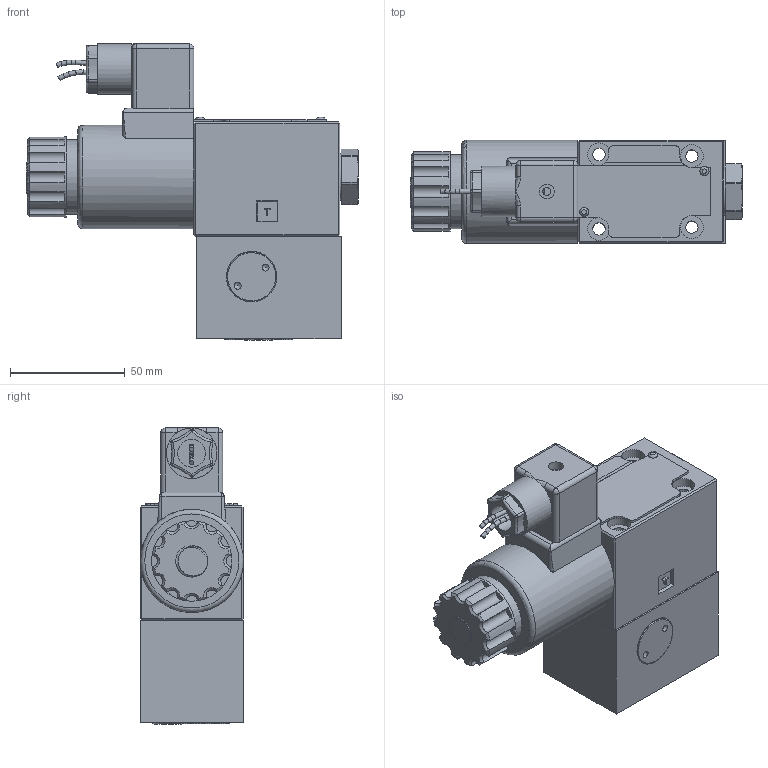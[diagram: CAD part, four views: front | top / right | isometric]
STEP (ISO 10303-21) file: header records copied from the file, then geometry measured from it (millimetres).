
FILE_DESCRIPTION(/* description */ (''),/* implementation_level */ '2;1');
FILE_NAME(/* name */ 'M-4SED6Y电磁球阀.prt.stp',/* time_stamp */ '2022-03-30T19:36:25+08:00',/* author */ (''),/* organization */ (''),/* preprocessor_version */ 'ST-DEVELOPER v16.7',/* originating_system */ 'SIEMENS PLM Software NX 12.0',/* authorisation */ '');
FILE_SCHEMA (('AUTOMOTIVE_DESIGN { 1 0 10303 214 3 1 1 1 }'));
Products named in the file (1): M-4SED6Y电磁球阀
Bounding box: 144.78 x 45.2 x 129.1 mm (x, y, z)
Volume: 397435 mm3; surface area: 88651.1 mm2
Topology: 19 solids, 31 shells, 718 faces, 1732 edges, 1099 vertices
Faces by surface type: cylinder 278, plane 276, torus 61, cone 60, bspline 24, sphere 14, extrusion 5
Full cylindrical faces by diameter (mm): 1.5 x1, 1.7 x1, 1.8 x4, 2 x8, 2.55 x20, 3 x42, 3.5 x1, 4 x1, 5 x4, 5.4 x5, 5.5 x4, 6 x3, 6.5 x1, 7 x1, 10 x4, 11 x1, 12.085 x1, 12.2 x6, 13.7 x1, 13.9 x1, 16 x1, 17.5 x1, 18 x1, 18.3 x1, 20.5 x3, 22 x2, 23 x2, 24 x1, 32.5 x1, 35 x1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
Entity records: 42259 total; most frequent: CARTESIAN_POINT 26853, DIRECTION 2855, ORIENTED_EDGE 2714, EDGE_CURVE 1357, AXIS2_PLACEMENT_3D 1140, VERTEX_POINT 932, EDGE_LOOP 840, ADVANCED_FACE 658
